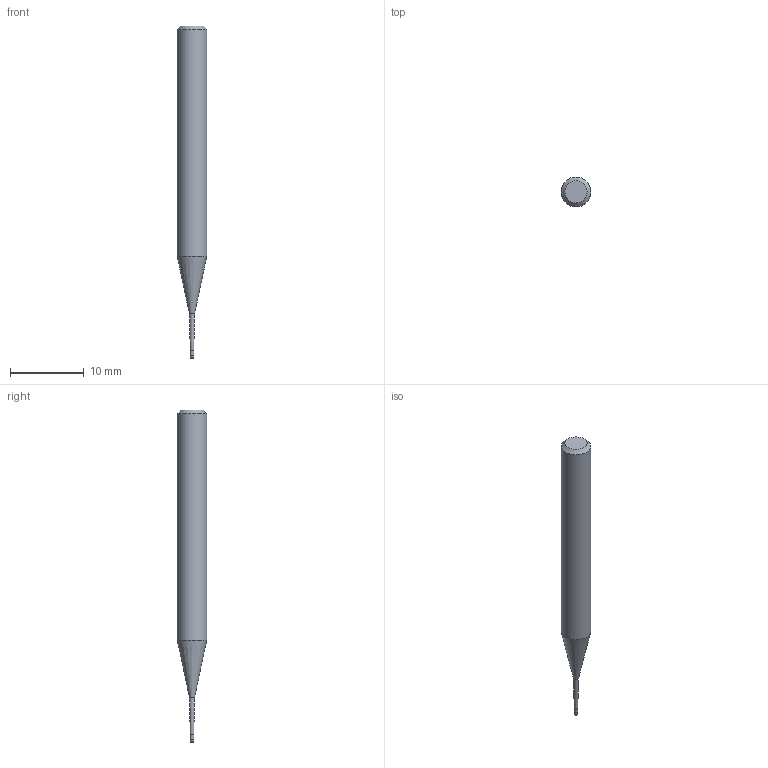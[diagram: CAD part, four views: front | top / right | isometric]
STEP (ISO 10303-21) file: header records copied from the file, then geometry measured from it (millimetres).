
FILE_DESCRIPTION((''),'2;1');
FILE_NAME('C:\Users\nsx150\AppData\Local\Temp\Mastercam 2021\YKS1SUSFZB\TEMP.step','2025-06-23T14:03:25',(''),(''),'STEP Write','Mastercam 2021 ... CNC Software, Inc.','');
FILE_SCHEMA(('AUTOMOTIVE_DESIGN'));
Length unit declared in the file: millimetre
Products named in the file (1): None
Bounding box: 4 x 4 x 45 mm (x, y, z)
Volume: 431.6 mm3; surface area: 470.7 mm2
Topology: 2 solids, 2 shells, 11 faces, 16 edges, 9 vertices
Faces by surface type: plane 4, cylinder 3, cone 3, torus 1
Full cylindrical faces by diameter (mm): 0.48 x1, 0.5 x1, 4 x1
Entity records: 253 total; most frequent: DIRECTION 44, CARTESIAN_POINT 31, AXIS2_PLACEMENT_3D 22, ORIENTED_EDGE 18, EDGE_LOOP 18, STYLED_ITEM 14, ADVANCED_FACE 11, FACE_BOUND 11
